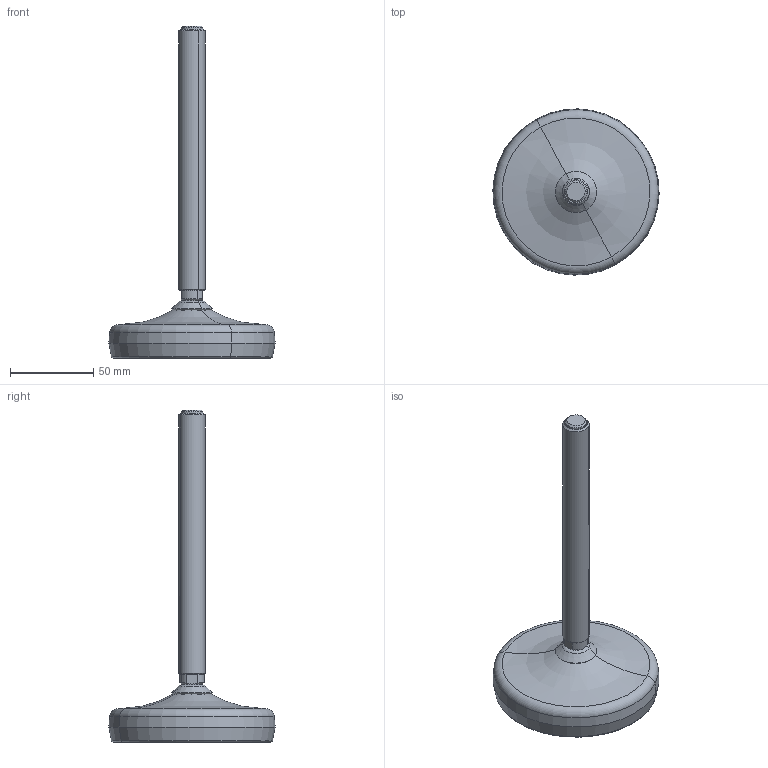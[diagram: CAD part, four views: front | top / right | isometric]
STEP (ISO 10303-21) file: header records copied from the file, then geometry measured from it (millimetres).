
FILE_DESCRIPTION(('CATIA V5 STEP Exchange'),'2;1');
FILE_NAME('C:\Users\ghidonia\Desktop\3\P92503_01.stp','2016-06-07T15:40:34+00:00',('none'),('none'),'Version 5-6 Release 2012','CATIA V5 STEP AP203','none');
FILE_SCHEMA(('CONFIG_CONTROL_DESIGN'));
Length unit declared in the file: millimetre
Products named in the file (1): P92503_01
Assembly tree (3 placements, depth 2):
  P92503_01
    #58
    #1147
    #1542
Bounding box: 99.97 x 99.97 x 199.66 mm (x, y, z)
Volume: 200557.5 mm3; surface area: 51903.5 mm2
Topology: 4 solids, 4 shells, 102 faces, 206 edges, 123 vertices
Faces by surface type: cone 37, plane 23, cylinder 18, torus 18, revolution 6
Entity records: 2715 total; most frequent: CARTESIAN_POINT 526, ORIENTED_EDGE 412, DIRECTION 400, AXIS2_PLACEMENT_3D 236, EDGE_CURVE 206, CIRCLE 137, VERTEX_POINT 123, EDGE_LOOP 117
